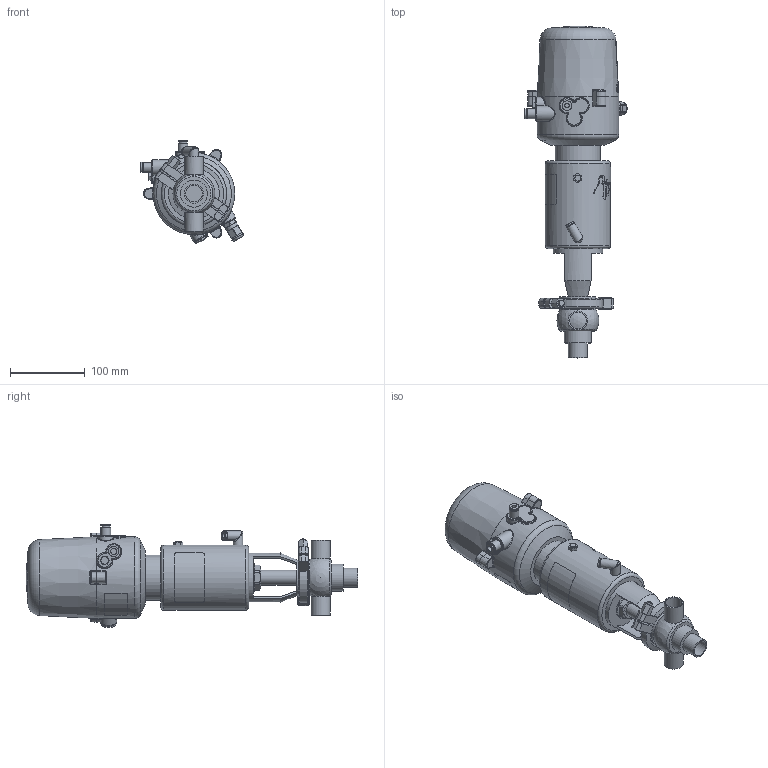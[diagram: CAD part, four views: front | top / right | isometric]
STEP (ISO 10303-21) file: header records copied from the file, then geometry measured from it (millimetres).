
FILE_DESCRIPTION (( 'STEP AP214' ), '1' );
FILE_NAME ('INNOVA N T W OD 1 T1 AS NC & C-TOP S_10.240.16.0058.STEP', '2024-08-06T08:16:45', ( '' ), ( '' ), 'SwSTEP 2.0', 'SolidWorks 2023', '' );
FILE_SCHEMA (( 'AUTOMOTIVE_DESIGN' ));
Length unit declared in the file: millimetre
Products named in the file (7): 10.240.15.0003_OD 1"; 10.240.15.0001_DN 025; 10.240.15.0010_DN 025; 10.240.15.0017_Estàndard; 10.240.15.0014_T1 AS P0; INNOVA N T W OD 1 T1 AS NC & C-TOP S_10.240.16.0058; 10.426.15.0001_C-TOP S - 1 EV
Assembly tree (6 placements, depth 2):
  INNOVA N T W OD 1 T1 AS NC & C-TOP S_10.240.16.0058
    10.240.15.0003_OD 1"
    10.240.15.0010_DN 025
    10.240.15.0014_T1 AS P0
    10.240.15.0017_Estàndard
    10.426.15.0001_C-TOP S - 1 EV
    10.240.15.0001_DN 025
Bounding box: 136.88 x 443 x 137.63 mm (x, y, z)
Volume: 2362799.2 mm3; surface area: 197403.8 mm2
Topology: 6 solids, 6 shells, 1108 faces, 2665 edges, 1777 vertices
Faces by surface type: plane 376, cylinder 333, cone 195, bspline 160, torus 37, sphere 7
Full cylindrical faces by diameter (mm): 0.371 x17, 0.512 x16, 0.658 x16, 0.795 x16, 0.94 x15, 1.098 x15, 1.241 x13, 1.382 x13, 1.523 x11, 1.669 x10, 2.201 x1, 4 x2, 5.5 x2, 6 x2, 6.15 x1, 8 x4, 8.5 x1, 10 x1, 10.5 x1, 11 x2, 12.5 x3, 13 x2, 13.5 x2, 16 x1, 17 x3, 20 x3, 20.5 x1, 22 x2, 22.1 x3, 25.4 x3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
Entity records: 56926 total; most frequent: CARTESIAN_POINT 26772, ORIENTED_EDGE 4526, DIRECTION 3641, EDGE_CURVE 2263, VERTEX_POINT 1606, EDGE_LOOP 1557, AXIS2_PLACEMENT_3D 1488, FACE_OUTER_BOUND 1323
